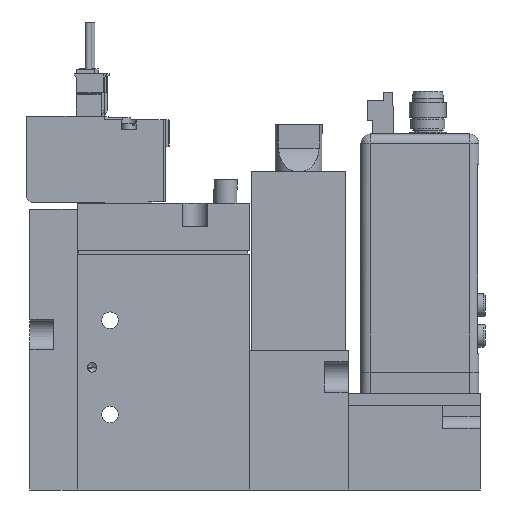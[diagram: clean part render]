
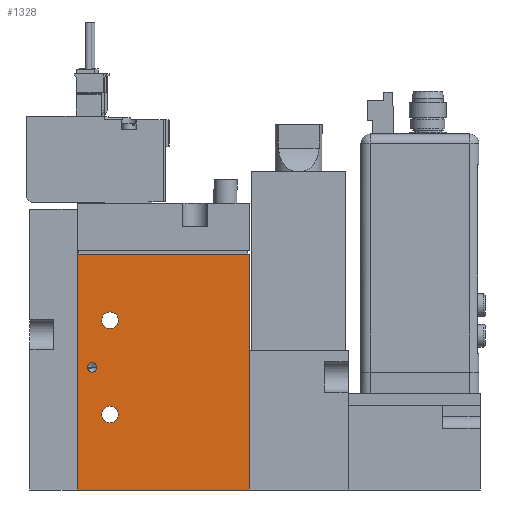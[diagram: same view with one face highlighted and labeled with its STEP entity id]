
A CAD part, left-side view. The second image highlights one B-rep face of the part: STEP entity #1328.
In plain terms, the highlighted planar face has unit normal (-1, 0, 0) as drawn and (1, 0, 0) by its records, which use the part's own axes.
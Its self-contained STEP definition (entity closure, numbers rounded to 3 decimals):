
#1328=ADVANCED_FACE('',(#2735,#2736,#2737,#2738),#2739,.F.);
#2735=FACE_BOUND('',#4521,.T.);
#2736=FACE_BOUND('',#4522,.T.);
#2737=FACE_BOUND('',#4523,.T.);
#2738=FACE_OUTER_BOUND('',#4524,.T.);
#2739=PLANE('',#4525);
#4521=EDGE_LOOP('',(#8883));
#4522=EDGE_LOOP('',(#8884));
#4523=EDGE_LOOP('',(#8885));
#4524=EDGE_LOOP('',(#8886,#8887,#8888,#8889));
#4525=AXIS2_PLACEMENT_3D('',#8890,#8891,#8892);
#8883=ORIENTED_EDGE('',*,*,#12582,.F.);
#8884=ORIENTED_EDGE('',*,*,#12581,.T.);
#8885=ORIENTED_EDGE('',*,*,#12575,.T.);
#8886=ORIENTED_EDGE('',*,*,#12583,.T.);
#8887=ORIENTED_EDGE('',*,*,#12584,.F.);
#8888=ORIENTED_EDGE('',*,*,#12577,.F.);
#8889=ORIENTED_EDGE('',*,*,#12585,.T.);
#8890=CARTESIAN_POINT('',(8.5,-19.444,50.0));
#8891=DIRECTION('',(-1.0,0.0,0.0));
#8892=DIRECTION('',(0.0,0.0,1.0));
#12575=EDGE_CURVE('',#15265,#15265,#15266,.T.);
#12577=EDGE_CURVE('',#15267,#15269,#15270,.T.);
#12581=EDGE_CURVE('',#15276,#15276,#15277,.T.);
#12582=EDGE_CURVE('',#15278,#15278,#15279,.T.);
#12583=EDGE_CURVE('',#15280,#15281,#15282,.T.);
#12584=EDGE_CURVE('',#15269,#15281,#15283,.T.);
#12585=EDGE_CURVE('',#15267,#15280,#15284,.T.);
#15265=VERTEX_POINT('',#19560);
#15266=CIRCLE('',#19561,1.75);
#15267=VERTEX_POINT('',#19562);
#15269=VERTEX_POINT('',#19565);
#15270=LINE('',#19566,#19567);
#15276=VERTEX_POINT('',#19574);
#15277=CIRCLE('',#19575,1.75);
#15278=VERTEX_POINT('',#19576);
#15279=CIRCLE('',#19577,1.0);
#15280=VERTEX_POINT('',#19578);
#15281=VERTEX_POINT('',#19579);
#15282=LINE('',#19580,#19581);
#15283=LINE('',#19582,#19583);
#15284=LINE('',#19584,#19585);
#19560=CARTESIAN_POINT('',(8.5,-10.694,16.0));
#19561=AXIS2_PLACEMENT_3D('',#23072,#23073,#23074);
#19562=CARTESIAN_POINT('',(8.5,-19.444,50.0));
#19565=CARTESIAN_POINT('',(8.5,17.056,50.0));
#19566=CARTESIAN_POINT('',(8.5,-19.444,50.0));
#19567=VECTOR('',#23076,1.0);
#19574=CARTESIAN_POINT('',(8.5,-10.694,36.0));
#19575=AXIS2_PLACEMENT_3D('',#23084,#23085,#23086);
#19576=CARTESIAN_POINT('',(8.5,-17.244,26.0));
#19577=AXIS2_PLACEMENT_3D('',#23087,#23088,#23089);
#19578=CARTESIAN_POINT('',(8.5,-19.444,0.0));
#19579=CARTESIAN_POINT('',(8.5,17.056,0.0));
#19580=CARTESIAN_POINT('',(8.5,-19.444,0.0));
#19581=VECTOR('',#23090,1.0);
#19582=CARTESIAN_POINT('',(8.5,17.056,50.0));
#19583=VECTOR('',#23091,1.0);
#19584=CARTESIAN_POINT('',(8.5,-19.444,50.0));
#19585=VECTOR('',#23092,1.0);
#23072=CARTESIAN_POINT('',(8.5,-12.444,16.0));
#23073=DIRECTION('',(-1.0,0.0,0.0));
#23074=DIRECTION('',(0.0,1.0,0.0));
#23076=DIRECTION('',(0.0,1.0,0.0));
#23084=CARTESIAN_POINT('',(8.5,-12.444,36.0));
#23085=DIRECTION('',(-1.0,0.0,0.0));
#23086=DIRECTION('',(0.0,1.0,0.0));
#23087=CARTESIAN_POINT('',(8.5,-16.244,26.0));
#23088=DIRECTION('',(1.0,0.,0.0));
#23089=DIRECTION('',(0.,-1.0,0.0));
#23090=DIRECTION('',(0.0,1.0,0.0));
#23091=DIRECTION('',(0.0,0.0,-1.0));
#23092=DIRECTION('',(0.0,0.0,-1.0));
